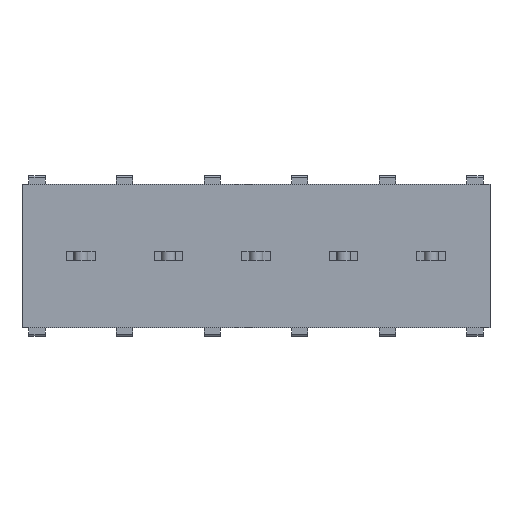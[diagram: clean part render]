
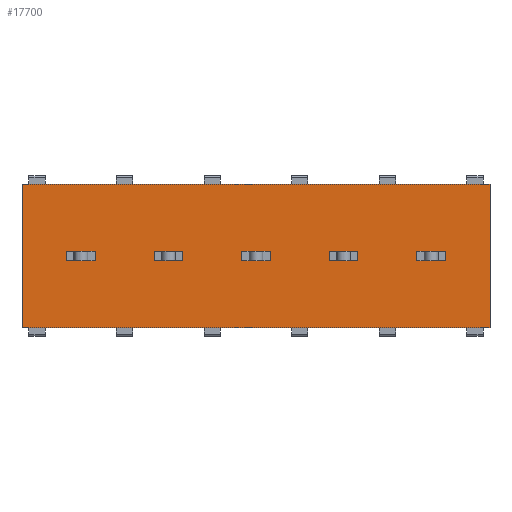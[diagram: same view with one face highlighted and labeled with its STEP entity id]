
A CAD part, front view. The second image highlights one B-rep face of the part: STEP entity #17700.
In plain terms, the highlighted planar face has unit normal (0, -1, 0).
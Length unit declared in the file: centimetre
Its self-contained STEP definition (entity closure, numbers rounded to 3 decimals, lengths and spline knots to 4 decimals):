
#1485=VERTEX_POINT('',#24161);
#1486=VERTEX_POINT('',#24163);
#1609=VERTEX_POINT('',#24590);
#1610=VERTEX_POINT('',#24591);
#1613=VERTEX_POINT('',#24599);
#1639=VERTEX_POINT('',#24669);
#1817=VERTEX_POINT('',#25267);
#1818=VERTEX_POINT('',#25268);
#1821=VERTEX_POINT('',#25276);
#1847=VERTEX_POINT('',#25346);
#2025=VERTEX_POINT('',#25944);
#2026=VERTEX_POINT('',#25945);
#2029=VERTEX_POINT('',#25953);
#2055=VERTEX_POINT('',#26023);
#2233=VERTEX_POINT('',#26621);
#2234=VERTEX_POINT('',#26622);
#2237=VERTEX_POINT('',#26630);
#2263=VERTEX_POINT('',#26700);
#2313=VERTEX_POINT('',#26875);
#2314=VERTEX_POINT('',#26876);
#2321=VERTEX_POINT('',#26891);
#2340=VERTEX_POINT('',#26947);
#2678=VERTEX_POINT('',#28458);
#2679=VERTEX_POINT('',#28460);
#3310=VECTOR('',#19430,1.);
#3429=VECTOR('',#19715,1.);
#3433=VECTOR('',#19720,1.);
#3461=VECTOR('',#19773,1.);
#3463=VECTOR('',#19776,1.);
#3653=VECTOR('',#20192,1.);
#3657=VECTOR('',#20197,1.);
#3685=VECTOR('',#20250,1.);
#3687=VECTOR('',#20253,1.);
#3877=VECTOR('',#20669,1.);
#3881=VECTOR('',#20674,1.);
#3909=VECTOR('',#20727,1.);
#3911=VECTOR('',#20730,1.);
#4101=VECTOR('',#21146,1.);
#4105=VECTOR('',#21151,1.);
#4133=VECTOR('',#21204,1.);
#4135=VECTOR('',#21207,1.);
#4209=VECTOR('',#21347,1.);
#4215=VECTOR('',#21356,1.);
#4238=VECTOR('',#21400,1.);
#4248=VECTOR('',#21418,1.);
#4646=VECTOR('',#21952,1.);
#4650=VECTOR('',#21958,1.);
#4651=VECTOR('',#21960,1.);
#5286=LINE('',#24162,#3310);
#5405=LINE('',#24589,#3429);
#5409=LINE('',#24598,#3433);
#5437=LINE('',#24668,#3461);
#5439=LINE('',#24672,#3463);
#5629=LINE('',#25266,#3653);
#5633=LINE('',#25275,#3657);
#5661=LINE('',#25345,#3685);
#5663=LINE('',#25349,#3687);
#5853=LINE('',#25943,#3877);
#5857=LINE('',#25952,#3881);
#5885=LINE('',#26022,#3909);
#5887=LINE('',#26026,#3911);
#6077=LINE('',#26620,#4101);
#6081=LINE('',#26629,#4105);
#6109=LINE('',#26699,#4133);
#6111=LINE('',#26703,#4135);
#6185=LINE('',#26874,#4209);
#6191=LINE('',#26890,#4215);
#6214=LINE('',#26946,#4238);
#6224=LINE('',#26968,#4248);
#6622=LINE('',#28459,#4646);
#6626=LINE('',#28466,#4650);
#6627=LINE('',#28468,#4651);
#7461=EDGE_CURVE('',#1486,#1485,#5286,.T.);
#7652=EDGE_CURVE('',#1609,#1610,#5405,.T.);
#7656=EDGE_CURVE('',#1613,#1609,#5409,.T.);
#7691=EDGE_CURVE('',#1639,#1613,#5437,.T.);
#7694=EDGE_CURVE('',#1610,#1639,#5439,.T.);
#7968=EDGE_CURVE('',#1817,#1818,#5629,.T.);
#7972=EDGE_CURVE('',#1821,#1817,#5633,.T.);
#8007=EDGE_CURVE('',#1847,#1821,#5661,.T.);
#8010=EDGE_CURVE('',#1818,#1847,#5663,.T.);
#8284=EDGE_CURVE('',#2025,#2026,#5853,.T.);
#8288=EDGE_CURVE('',#2029,#2025,#5857,.T.);
#8323=EDGE_CURVE('',#2055,#2029,#5885,.T.);
#8326=EDGE_CURVE('',#2026,#2055,#5887,.T.);
#8600=EDGE_CURVE('',#2233,#2234,#6077,.T.);
#8604=EDGE_CURVE('',#2237,#2233,#6081,.T.);
#8639=EDGE_CURVE('',#2263,#2237,#6109,.T.);
#8642=EDGE_CURVE('',#2234,#2263,#6111,.T.);
#8728=EDGE_CURVE('',#2313,#2314,#6185,.T.);
#8736=EDGE_CURVE('',#2314,#2321,#6191,.T.);
#8764=EDGE_CURVE('',#2321,#2340,#6214,.T.);
#8776=EDGE_CURVE('',#2340,#2313,#6224,.T.);
#9278=EDGE_CURVE('',#2679,#2678,#6622,.T.);
#9282=EDGE_CURVE('',#1485,#2679,#6626,.T.);
#9283=EDGE_CURVE('',#1486,#2678,#6627,.T.);
#14544=ORIENTED_EDGE('',*,*,#8764,.F.);
#14545=ORIENTED_EDGE('',*,*,#8736,.F.);
#14546=ORIENTED_EDGE('',*,*,#8728,.F.);
#14547=ORIENTED_EDGE('',*,*,#8776,.F.);
#14548=ORIENTED_EDGE('',*,*,#7656,.T.);
#14549=ORIENTED_EDGE('',*,*,#7652,.T.);
#14550=ORIENTED_EDGE('',*,*,#7694,.T.);
#14551=ORIENTED_EDGE('',*,*,#7691,.T.);
#14552=ORIENTED_EDGE('',*,*,#7972,.T.);
#14553=ORIENTED_EDGE('',*,*,#7968,.T.);
#14554=ORIENTED_EDGE('',*,*,#8010,.T.);
#14555=ORIENTED_EDGE('',*,*,#8007,.T.);
#14556=ORIENTED_EDGE('',*,*,#8288,.T.);
#14557=ORIENTED_EDGE('',*,*,#8284,.T.);
#14558=ORIENTED_EDGE('',*,*,#8326,.T.);
#14559=ORIENTED_EDGE('',*,*,#8323,.T.);
#14560=ORIENTED_EDGE('',*,*,#8604,.T.);
#14561=ORIENTED_EDGE('',*,*,#8600,.T.);
#14562=ORIENTED_EDGE('',*,*,#8642,.T.);
#14563=ORIENTED_EDGE('',*,*,#8639,.T.);
#14564=ORIENTED_EDGE('',*,*,#9278,.T.);
#14565=ORIENTED_EDGE('',*,*,#9283,.F.);
#14566=ORIENTED_EDGE('',*,*,#7461,.T.);
#14567=ORIENTED_EDGE('',*,*,#9282,.T.);
#15651=EDGE_LOOP('',(#14544,#14545,#14546,#14547));
#15652=EDGE_LOOP('',(#14548,#14549,#14550,#14551));
#15653=EDGE_LOOP('',(#14552,#14553,#14554,#14555));
#15654=EDGE_LOOP('',(#14556,#14557,#14558,#14559));
#15655=EDGE_LOOP('',(#14560,#14561,#14562,#14563));
#15656=EDGE_LOOP('',(#14564,#14565,#14566,#14567));
#16713=FACE_BOUND('',#15651,.T.);
#16714=FACE_BOUND('',#15652,.T.);
#16715=FACE_BOUND('',#15653,.T.);
#16716=FACE_BOUND('',#15654,.T.);
#16717=FACE_BOUND('',#15655,.T.);
#16718=FACE_BOUND('',#15656,.T.);
#17700=ADVANCED_FACE('',(#16713,#16714,#16715,#16716,#16717,#16718),#18399,
 .T.);
#18399=PLANE('',#29620);
#19430=DIRECTION('',(0.,0.,-1.));
#19715=DIRECTION('',(0.,0.,1.));
#19720=DIRECTION('',(-1.,0.,0.));
#19773=DIRECTION('',(0.,0.,-1.));
#19776=DIRECTION('',(1.,0.,0.));
#20192=DIRECTION('',(0.,0.,1.));
#20197=DIRECTION('',(-1.,0.,0.));
#20250=DIRECTION('',(0.,0.,-1.));
#20253=DIRECTION('',(1.,0.,0.));
#20669=DIRECTION('',(0.,0.,1.));
#20674=DIRECTION('',(-1.,0.,0.));
#20727=DIRECTION('',(0.,0.,-1.));
#20730=DIRECTION('',(1.,0.,0.));
#21146=DIRECTION('',(0.,0.,1.));
#21151=DIRECTION('',(-1.,0.,0.));
#21204=DIRECTION('',(0.,0.,-1.));
#21207=DIRECTION('',(1.,0.,0.));
#21347=DIRECTION('',(-1.,0.,0.));
#21356=DIRECTION('',(0.,0.,-1.));
#21400=DIRECTION('',(1.,0.,0.));
#21418=DIRECTION('',(0.,0.,1.));
#21952=DIRECTION('',(0.,0.,1.));
#21958=DIRECTION('',(1.,0.,0.));
#21959=DIRECTION('',(0.,-1.,0.));
#21960=DIRECTION('',(1.,0.,0.));
#24161=CARTESIAN_POINT('',(-0.822,0.,-0.625));
#24162=CARTESIAN_POINT('',(-0.822,0.,0.625));
#24163=CARTESIAN_POINT('',(-0.822,0.,0.625));
#24589=CARTESIAN_POINT('',(2.613,0.,0.));
#24590=CARTESIAN_POINT('',(2.613,0.,-0.04));
#24591=CARTESIAN_POINT('',(2.613,0.,0.04));
#24598=CARTESIAN_POINT('',(1.369,0.,-0.04));
#24599=CARTESIAN_POINT('',(2.863,0.,-0.04));
#24668=CARTESIAN_POINT('',(2.863,0.,0.));
#24669=CARTESIAN_POINT('',(2.863,0.,0.04));
#24672=CARTESIAN_POINT('',(1.369,0.,0.04));
#25266=CARTESIAN_POINT('',(1.851,0.,0.));
#25267=CARTESIAN_POINT('',(1.851,0.,-0.04));
#25268=CARTESIAN_POINT('',(1.851,0.,0.04));
#25275=CARTESIAN_POINT('',(0.988,0.,-0.04));
#25276=CARTESIAN_POINT('',(2.101,0.,-0.04));
#25345=CARTESIAN_POINT('',(2.101,0.,0.));
#25346=CARTESIAN_POINT('',(2.101,0.,0.04));
#25349=CARTESIAN_POINT('',(0.988,0.,0.04));
#25943=CARTESIAN_POINT('',(1.089,0.,0.));
#25944=CARTESIAN_POINT('',(1.089,0.,-0.04));
#25945=CARTESIAN_POINT('',(1.089,0.,0.04));
#25952=CARTESIAN_POINT('',(0.607,0.,-0.04));
#25953=CARTESIAN_POINT('',(1.339,0.,-0.04));
#26022=CARTESIAN_POINT('',(1.339,0.,0.));
#26023=CARTESIAN_POINT('',(1.339,0.,0.04));
#26026=CARTESIAN_POINT('',(0.607,0.,0.04));
#26620=CARTESIAN_POINT('',(0.327,0.,0.));
#26621=CARTESIAN_POINT('',(0.327,0.,-0.04));
#26622=CARTESIAN_POINT('',(0.327,0.,0.04));
#26629=CARTESIAN_POINT('',(0.226,0.,-0.04));
#26630=CARTESIAN_POINT('',(0.577,0.,-0.04));
#26699=CARTESIAN_POINT('',(0.577,0.,0.));
#26700=CARTESIAN_POINT('',(0.577,0.,0.04));
#26703=CARTESIAN_POINT('',(0.226,0.,0.04));
#26874=CARTESIAN_POINT('',(-0.465,0.,0.04));
#26875=CARTESIAN_POINT('',(-0.185,0.,0.04));
#26876=CARTESIAN_POINT('',(-0.435,0.,0.04));
#26890=CARTESIAN_POINT('',(-0.435,0.,0.));
#26891=CARTESIAN_POINT('',(-0.435,0.,-0.04));
#26946=CARTESIAN_POINT('',(-0.465,0.,-0.04));
#26947=CARTESIAN_POINT('',(-0.185,0.,-0.04));
#26968=CARTESIAN_POINT('',(-0.185,0.,0.));
#28458=CARTESIAN_POINT('',(3.25,0.,0.625));
#28459=CARTESIAN_POINT('',(3.25,0.,-0.625));
#28460=CARTESIAN_POINT('',(3.25,0.,-0.625));
#28466=CARTESIAN_POINT('',(3.19,0.,-0.625));
#28467=CARTESIAN_POINT('',(3.19,0.,0.));
#28468=CARTESIAN_POINT('',(3.19,0.,0.625));
#29620=AXIS2_PLACEMENT_3D('',#28467,#21959,$);
